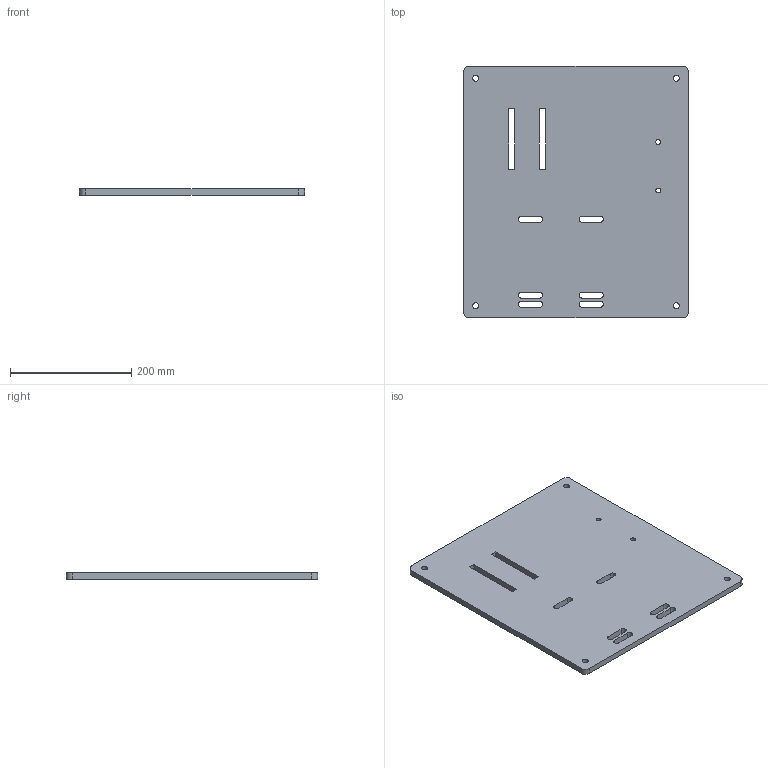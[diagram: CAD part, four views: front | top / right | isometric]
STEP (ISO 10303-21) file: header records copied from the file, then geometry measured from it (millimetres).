
FILE_DESCRIPTION(('CATIA V5 STEP Exchange'),'2;1');
FILE_NAME('C:\Users\gener\Documents\Lijadora Javitxu corte laser\Base lijadora rev1.stp','2022-10-12T13:30:50+00:00',('none'),('none'),'CATIA Version 5 Release 20 GA (IN-10)','CATIA V5 STEP AP203','none');
FILE_SCHEMA(('CONFIG_CONTROL_DESIGN'));
Length unit declared in the file: millimetre
Products named in the file (1): Base lijadora
Bounding box: 371 x 415 x 10 mm (x, y, z)
Volume: 1491049.1 mm3; surface area: 325434.4 mm2
Topology: 1 solids, 1 shells, 54 faces, 156 edges, 104 vertices
Faces by surface type: cylinder 28, plane 26
Entity records: 1768 total; most frequent: ORIENTED_EDGE 312, CARTESIAN_POINT 301, DIRECTION 236, EDGE_CURVE 156, VERTEX_POINT 104, VECTOR 100, LINE 100, AXIS2_PLACEMENT_3D 97
